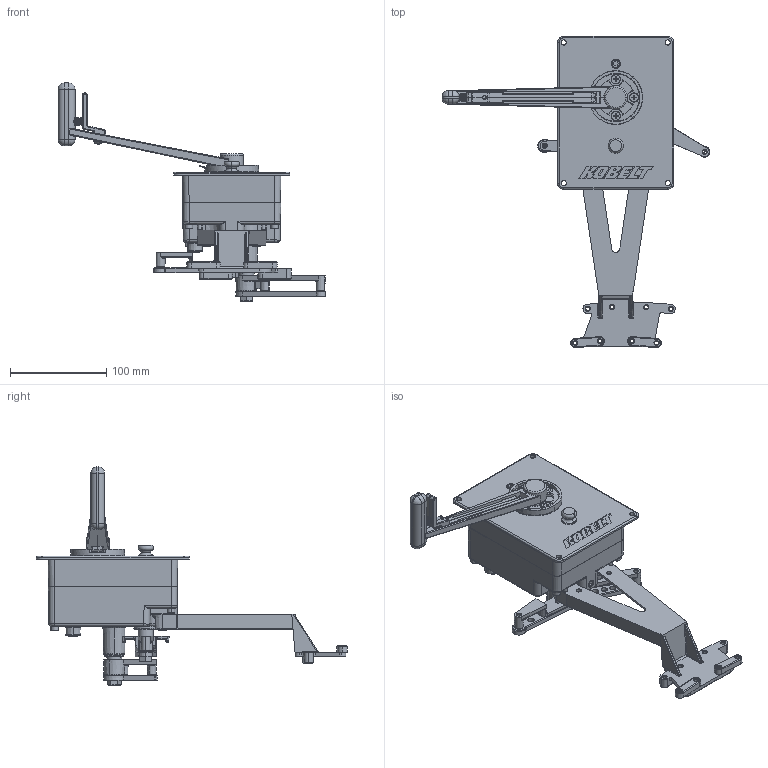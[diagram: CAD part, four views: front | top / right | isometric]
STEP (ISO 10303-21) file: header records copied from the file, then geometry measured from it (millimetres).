
FILE_DESCRIPTION (( 'STEP AP214' ), '1' );
FILE_NAME ('2042-X4.STEP', '2025-09-11T21:06:50', ( '' ), ( '' ), 'SwSTEP 2.0', 'SolidWorks 2023', '' );
FILE_SCHEMA (( 'AUTOMOTIVE_DESIGN' ));
Length unit declared in the file: inch
Products named in the file (1): 2042-X4
Bounding box: 277.97 x 322.95 x 226.39 mm (x, y, z)
Surface area: 163848.7 mm2 (no closed solid volume)
Topology: 0 solids, 43 shells, 1133 faces, 3651 edges, 2462 vertices
Faces by surface type: plane 372, cone 305, cylinder 231, torus 121, bspline 92, sphere 12
Entity records: 46212 total; most frequent: CARTESIAN_POINT 14955, DIRECTION 6739, ORIENTED_EDGE 5985, EDGE_CURVE 3615, AXIS2_PLACEMENT_3D 2534, VERTEX_POINT 2462, VECTOR 1671, LINE 1671
